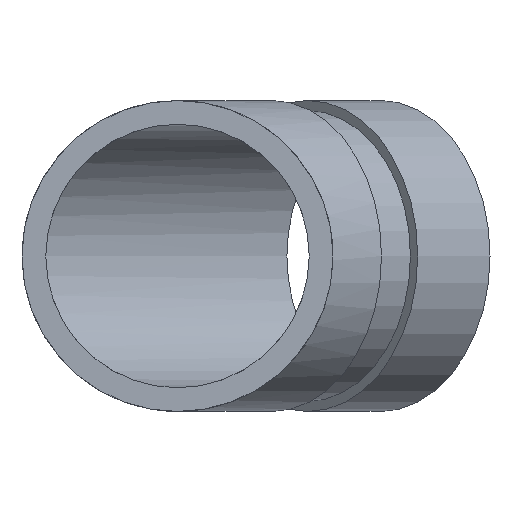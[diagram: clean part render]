
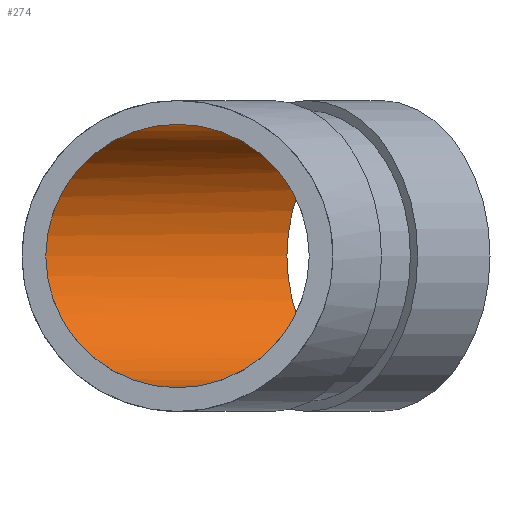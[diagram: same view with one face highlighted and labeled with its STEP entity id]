
A CAD part, front view. The second image highlights one B-rep face of the part: STEP entity #274.
In plain terms, the highlighted cylindrical face has radius 20.447 mm (diameter 40.894 mm), a full revolution.
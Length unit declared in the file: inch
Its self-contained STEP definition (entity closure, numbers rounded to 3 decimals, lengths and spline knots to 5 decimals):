
#45=ELLIPSE('',#322,0.87133,0.805);
#46=ELLIPSE('',#323,0.87133,0.805);
#47=ELLIPSE('',#324,0.87133,0.805);
#72=FACE_OUTER_BOUND('',#90,.T.);
#90=EDGE_LOOP('',(#219,#220,#221,#222,#223,#224));
#102=LINE('',#510,#110);
#110=VECTOR('',#413,0.805);
#128=CIRCLE('',#327,0.805);
#143=VERTEX_POINT('',#498);
#144=VERTEX_POINT('',#499);
#145=VERTEX_POINT('',#501);
#147=VERTEX_POINT('',#508);
#169=EDGE_CURVE('',#143,#144,#45,.T.);
#170=EDGE_CURVE('',#143,#145,#46,.T.);
#171=EDGE_CURVE('',#144,#145,#47,.T.);
#174=EDGE_CURVE('',#147,#147,#128,.T.);
#175=EDGE_CURVE('',#147,#144,#102,.T.);
#219=ORIENTED_EDGE('',*,*,#174,.F.);
#220=ORIENTED_EDGE('',*,*,#175,.T.);
#221=ORIENTED_EDGE('',*,*,#171,.T.);
#222=ORIENTED_EDGE('',*,*,#170,.F.);
#223=ORIENTED_EDGE('',*,*,#169,.T.);
#224=ORIENTED_EDGE('',*,*,#175,.F.);
#246=CYLINDRICAL_SURFACE('',#326,0.805);
#274=ADVANCED_FACE('',(#72),#246,.F.);
#322=AXIS2_PLACEMENT_3D('',#500,#400,#401);
#323=AXIS2_PLACEMENT_3D('',#502,#402,#403);
#324=AXIS2_PLACEMENT_3D('',#503,#404,#405);
#326=AXIS2_PLACEMENT_3D('',#507,#409,#410);
#327=AXIS2_PLACEMENT_3D('',#509,#411,#412);
#400=DIRECTION('center_axis',(-0.383,-0.924,0.));
#401=DIRECTION('ref_axis',(0.924,-0.383,0.));
#402=DIRECTION('center_axis',(0.383,0.924,0.));
#403=DIRECTION('ref_axis',(0.924,-0.383,0.));
#404=DIRECTION('center_axis',(-0.383,-0.924,0.));
#405=DIRECTION('ref_axis',(0.924,-0.383,0.));
#409=DIRECTION('center_axis',(-0.707,-0.707,0.));
#410=DIRECTION('ref_axis',(0.707,-0.707,0.));
#411=DIRECTION('center_axis',(-0.707,-0.707,0.));
#412=DIRECTION('ref_axis',(0.707,-0.707,0.));
#413=DIRECTION('',(-0.707,-0.707,0.));
#498=CARTESIAN_POINT('',(0.,0.,0.805));
#499=CARTESIAN_POINT('',(-0.805,0.33344,0.));
#500=CARTESIAN_POINT('Origin',(0.,0.,
0.));
#501=CARTESIAN_POINT('',(0.,0.,-0.805));
#502=CARTESIAN_POINT('Origin',(0.,0.,0.));
#503=CARTESIAN_POINT('Origin',(0.,0.,
0.));
#507=CARTESIAN_POINT('Origin',(1.23744,1.23744,0.));
#508=CARTESIAN_POINT('',(0.66822,1.80666,0.));
#509=CARTESIAN_POINT('Origin',(1.23744,1.23744,0.));
#510=CARTESIAN_POINT('',(0.66822,1.80666,0.));
